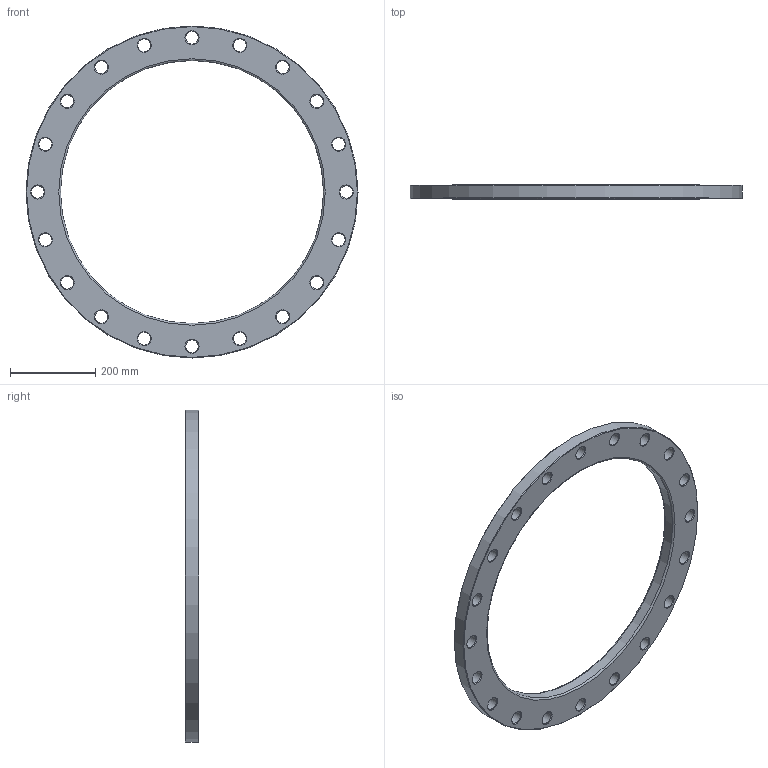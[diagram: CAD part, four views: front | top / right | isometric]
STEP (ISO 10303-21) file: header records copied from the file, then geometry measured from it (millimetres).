
FILE_DESCRIPTION(/* description */ ('Unknown'),/* implementation_level */ '2;1');
FILE_NAME(/* name */ 'FZ560B',/* time_stamp */ '2021-03-15T10:58:55+01:00',/* author */ ('Unknown'),/* organization */ ('Unknown'),/* preprocessor_version */ 'ST-DEVELOPER v16.7',/* originating_system */ 'Solid Edge',/* authorisation */ 'Unknown');
FILE_SCHEMA (('AUTOMOTIVE_DESIGN {1 0 10303 214 3 1 1}'));
Length unit declared in the file: millimetre
Products named in the file (1): FZ560B
Bounding box: 780 x 32 x 780 mm (x, y, z)
Volume: 5216313 mm3; surface area: 514174.4 mm2
Topology: 1 solids, 1 shells, 68 faces, 214 edges, 148 vertices
Faces by surface type: cone 42, cylinder 22, plane 2, torus 2
Full cylindrical faces by diameter (mm): 30 x20, 618 x1, 780 x1
Entity records: 1678 total; most frequent: DIRECTION 314, CARTESIAN_POINT 245, ORIENTED_EDGE 176, EDGE_LOOP 176, FACE_BOUND 176, AXIS2_PLACEMENT_3D 157, EDGE_CURVE 88, VERTEX_POINT 88
